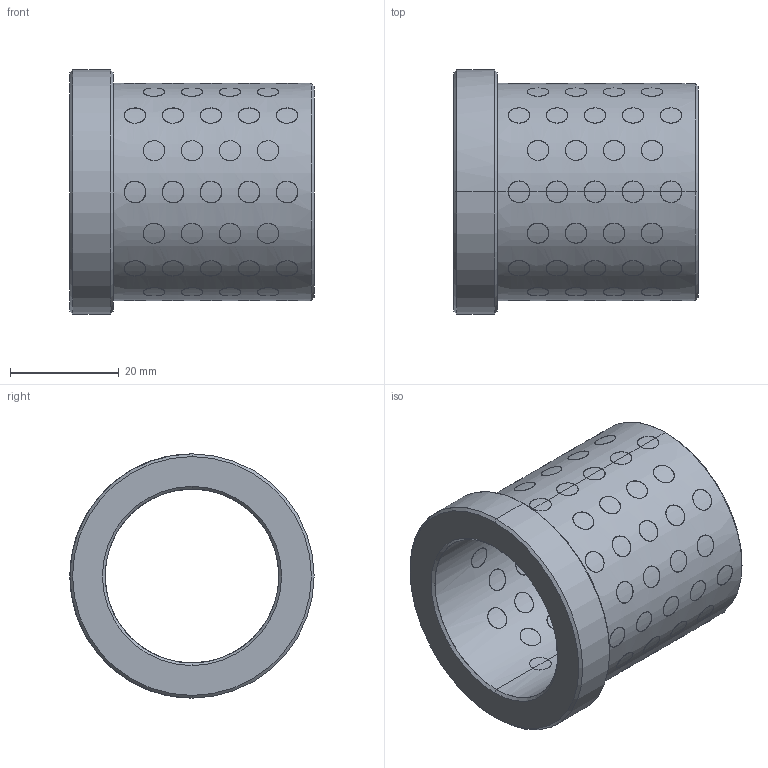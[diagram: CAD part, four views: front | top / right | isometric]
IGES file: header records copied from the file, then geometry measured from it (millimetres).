
Start section: START RECORD GO HERE.
Global section: file name: G4013245.igs; native system: DASSAULT SYSTEMES CATIA V5 R20 - www.3ds.com; preprocessor: CATIA Version 5 Release 20 ; author: r.borello; organization: CFTORINO; date: 20190624.143116; units: millimetre
Bounding box: 45 x 45 x 45 mm (x, y, z)
Surface area: 18868.3 mm2 (no closed solid volume)
Topology: 0 solids, 0 shells, 471 faces, 2044 edges, 2044 vertices
Faces by surface type: revolution 468, plane 3
